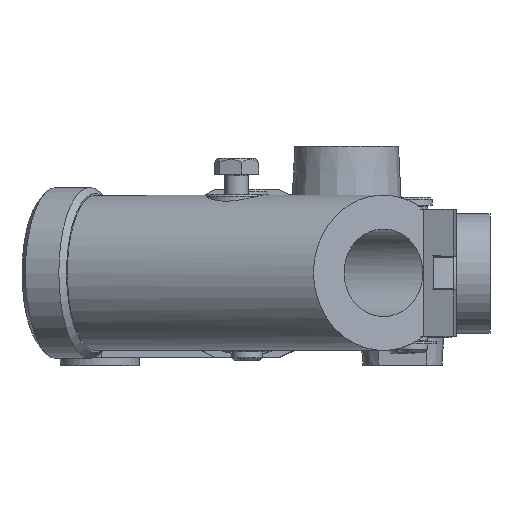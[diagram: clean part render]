
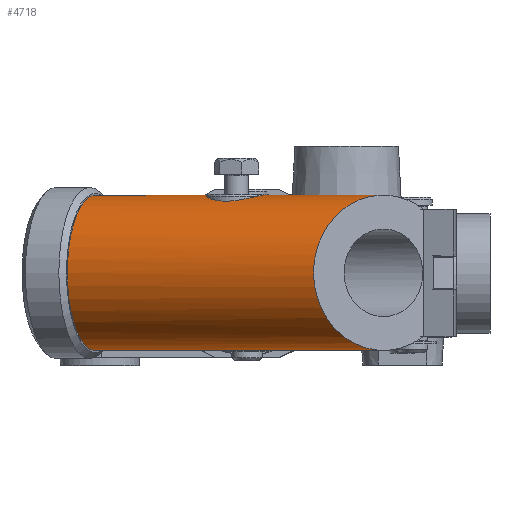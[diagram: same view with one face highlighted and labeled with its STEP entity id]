
A CAD part, top view. The second image highlights one B-rep face of the part: STEP entity #4718.
In plain terms, the highlighted cylindrical face has radius 19.5 mm (diameter 39 mm), a partial arc.
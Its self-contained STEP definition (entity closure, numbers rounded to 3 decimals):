
#20=ELLIPSE('',#6087,20.751,19.5);
#21=ELLIPSE('',#6088,22.517,19.5);
#22=ELLIPSE('',#6089,20.751,19.5);
#23=ELLIPSE('',#6090,20.751,19.5);
#24=ELLIPSE('',#6092,20.751,19.5);
#101=LINE('',#8553,#410);
#102=LINE('',#8558,#411);
#103=LINE('',#8562,#412);
#104=LINE('',#8566,#413);
#105=LINE('',#8600,#414);
#106=LINE('',#8604,#415);
#107=LINE('',#8608,#416);
#410=VECTOR('',#6947,1000.);
#411=VECTOR('',#6950,1000.);
#412=VECTOR('',#6953,1000.);
#413=VECTOR('',#6956,1000.);
#414=VECTOR('',#6957,1000.);
#415=VECTOR('',#6960,1000.);
#416=VECTOR('',#6963,1000.);
#679=B_SPLINE_CURVE_WITH_KNOTS('',3,(#8568,#8569,#8570,#8571,#8572,#8573),
 .UNSPECIFIED.,.F.,.F.,(4,1,1,4),(0.039,0.043,
0.045,0.047),.UNSPECIFIED.);
#680=B_SPLINE_CURVE_WITH_KNOTS('',3,(#8575,#8576,#8577,#8578,#8579),
 .UNSPECIFIED.,.F.,.F.,(4,1,4),(0.032,0.036,0.039),
 .UNSPECIFIED.);
#681=B_SPLINE_CURVE_WITH_KNOTS('',3,(#8581,#8582,#8583,#8584,#8585,#8586,
#8587),.UNSPECIFIED.,.F.,.F.,(4,1,1,1,4),(0.015,0.019,
0.024,0.028,0.032),.UNSPECIFIED.);
#682=B_SPLINE_CURVE_WITH_KNOTS('',3,(#8589,#8590,#8591,#8592,#8593),
 .UNSPECIFIED.,.F.,.F.,(4,1,4),(0.009,0.012,0.015),
 .UNSPECIFIED.);
#683=B_SPLINE_CURVE_WITH_KNOTS('',3,(#8595,#8596,#8597,#8598,#8599),
 .UNSPECIFIED.,.F.,.F.,(4,1,4),(0.,0.004,0.009),
 .UNSPECIFIED.);
#812=CYLINDRICAL_SURFACE('',#6086,19.5);
#1142=ORIENTED_EDGE('',*,*,#2286,.F.);
#1143=ORIENTED_EDGE('',*,*,#2287,.T.);
#1144=ORIENTED_EDGE('',*,*,#2288,.T.);
#1145=ORIENTED_EDGE('',*,*,#2289,.T.);
#1146=ORIENTED_EDGE('',*,*,#2290,.F.);
#1147=ORIENTED_EDGE('',*,*,#2291,.T.);
#1148=ORIENTED_EDGE('',*,*,#2292,.F.);
#1149=ORIENTED_EDGE('',*,*,#2293,.F.);
#1150=ORIENTED_EDGE('',*,*,#2294,.F.);
#1151=ORIENTED_EDGE('',*,*,#2295,.F.);
#1152=ORIENTED_EDGE('',*,*,#2296,.F.);
#1153=ORIENTED_EDGE('',*,*,#2297,.F.);
#1154=ORIENTED_EDGE('',*,*,#2298,.F.);
#1155=ORIENTED_EDGE('',*,*,#2299,.F.);
#1156=ORIENTED_EDGE('',*,*,#2300,.T.);
#1157=ORIENTED_EDGE('',*,*,#2301,.T.);
#1158=ORIENTED_EDGE('',*,*,#2302,.T.);
#1159=ORIENTED_EDGE('',*,*,#2303,.F.);
#2286=EDGE_CURVE('',#2963,#2964,#101,.T.);
#2287=EDGE_CURVE('',#2963,#2965,#20,.T.);
#2288=EDGE_CURVE('',#2965,#2966,#102,.F.);
#2289=EDGE_CURVE('',#2966,#2967,#21,.T.);
#2290=EDGE_CURVE('',#2968,#2967,#103,.F.);
#2291=EDGE_CURVE('',#2968,#2969,#22,.T.);
#2292=EDGE_CURVE('',#2970,#2969,#104,.F.);
#2293=EDGE_CURVE('',#2971,#2970,#679,.T.);
#2294=EDGE_CURVE('',#2972,#2971,#680,.T.);
#2295=EDGE_CURVE('',#2973,#2972,#681,.T.);
#2296=EDGE_CURVE('',#2974,#2973,#682,.T.);
#2297=EDGE_CURVE('',#2970,#2974,#683,.T.);
#2298=EDGE_CURVE('',#2975,#2970,#105,.F.);
#2299=EDGE_CURVE('',#2976,#2975,#23,.T.);
#2300=EDGE_CURVE('',#2976,#2977,#106,.T.);
#2301=EDGE_CURVE('',#2977,#2978,#3460,.T.);
#2302=EDGE_CURVE('',#2978,#2979,#107,.F.);
#2303=EDGE_CURVE('',#2964,#2979,#24,.T.);
#2963=VERTEX_POINT('',#8554);
#2964=VERTEX_POINT('',#8555);
#2965=VERTEX_POINT('',#8557);
#2966=VERTEX_POINT('',#8559);
#2967=VERTEX_POINT('',#8561);
#2968=VERTEX_POINT('',#8563);
#2969=VERTEX_POINT('',#8565);
#2970=VERTEX_POINT('',#8567);
#2971=VERTEX_POINT('',#8574);
#2972=VERTEX_POINT('',#8580);
#2973=VERTEX_POINT('',#8588);
#2974=VERTEX_POINT('',#8594);
#2975=VERTEX_POINT('',#8601);
#2976=VERTEX_POINT('',#8603);
#2977=VERTEX_POINT('',#8605);
#2978=VERTEX_POINT('',#8607);
#2979=VERTEX_POINT('',#8609);
#3460=CIRCLE('',#6091,19.5);
#3804=EDGE_LOOP('',(#1142,#1143,#1144,#1145,#1146,#1147,#1148,#1149,#1150,
#1151,#1152,#1153,#1154,#1155,#1156,#1157,#1158,#1159));
#4216=FACE_BOUND('',#3804,.T.);
#4718=ADVANCED_FACE('',(#4216),#812,.T.);
#6086=AXIS2_PLACEMENT_3D('',#8552,#6945,#6946);
#6087=AXIS2_PLACEMENT_3D('',#8556,#6948,#6949);
#6088=AXIS2_PLACEMENT_3D('',#8560,#6951,#6952);
#6089=AXIS2_PLACEMENT_3D('',#8564,#6954,#6955);
#6090=AXIS2_PLACEMENT_3D('',#8602,#6958,#6959);
#6091=AXIS2_PLACEMENT_3D('',#8606,#6961,#6962);
#6092=AXIS2_PLACEMENT_3D('',#8610,#6964,#6965);
#6945=DIRECTION('',(-0.933,0.,-0.361));
#6946=DIRECTION('',(0.361,0.,-0.933));
#6947=DIRECTION('',(-0.933,0.,-0.361));
#6948=DIRECTION('',(1.,0.,0.02));
#6949=DIRECTION('',(0.02,0.,-1.));
#6950=DIRECTION('',(-0.933,0.,-0.361));
#6951=DIRECTION('',(-0.628,0.,-0.779));
#6952=DIRECTION('',(-0.779,0.,0.628));
#6953=DIRECTION('',(-0.933,0.,-0.361));
#6954=DIRECTION('',(1.,0.,0.02));
#6955=DIRECTION('',(0.02,0.,-1.));
#6956=DIRECTION('',(-0.933,0.,-0.361));
#6957=DIRECTION('',(-0.933,0.,-0.361));
#6958=DIRECTION('',(0.753,0.,0.658));
#6959=DIRECTION('',(-0.658,0.,0.753));
#6960=DIRECTION('',(-0.933,0.,-0.361));
#6961=DIRECTION('',(0.933,0.,0.361));
#6962=DIRECTION('',(-0.361,0.,0.933));
#6963=DIRECTION('',(-0.933,0.,-0.361));
#6964=DIRECTION('',(0.753,0.,0.658));
#6965=DIRECTION('',(-0.658,0.,0.753));
#8552=CARTESIAN_POINT('',(40.231,0.,229.757));
#8553=CARTESIAN_POINT('',(42.935,-18.,222.761));
#8554=CARTESIAN_POINT('',(13.442,-18.,211.362));
#8555=CARTESIAN_POINT('',(-34.366,-18.,192.884));
#8556=CARTESIAN_POINT('',(13.285,0.,219.342));
#8557=CARTESIAN_POINT('',(13.519,-16.,207.482));
#8558=CARTESIAN_POINT('',(44.25,-16.,219.359));
#8559=CARTESIAN_POINT('',(44.25,-16.,219.359));
#8560=CARTESIAN_POINT('',(34.229,0.,227.436));
#8561=CARTESIAN_POINT('',(44.25,16.,219.359));
#8562=CARTESIAN_POINT('',(44.25,16.,219.359));
#8563=CARTESIAN_POINT('',(13.519,16.,207.482));
#8564=CARTESIAN_POINT('',(13.285,0.,219.342));
#8565=CARTESIAN_POINT('',(13.442,18.,211.362));
#8566=CARTESIAN_POINT('',(42.935,18.,222.761));
#8567=CARTESIAN_POINT('',(0.029,18.,206.177));
#8568=CARTESIAN_POINT('',(4.812,19.25,212.73));
#8569=CARTESIAN_POINT('',(4.727,19.04,211.304));
#8570=CARTESIAN_POINT('',(3.982,18.556,209.223));
#8571=CARTESIAN_POINT('',(1.961,18.089,207.149));
#8572=CARTESIAN_POINT('',(0.71,18.,206.441));
#8573=CARTESIAN_POINT('',(0.029,18.,206.177));
#8574=CARTESIAN_POINT('',(4.812,19.25,212.73));
#8575=CARTESIAN_POINT('',(2.567,19.25,218.536));
#8576=CARTESIAN_POINT('',(3.333,19.407,217.788));
#8577=CARTESIAN_POINT('',(4.537,19.593,215.965));
#8578=CARTESIAN_POINT('',(4.874,19.406,213.789));
#8579=CARTESIAN_POINT('',(4.812,19.25,212.73));
#8580=CARTESIAN_POINT('',(2.567,19.25,218.536));
#8581=CARTESIAN_POINT('',(-10.162,19.25,213.616));
#8582=CARTESIAN_POINT('',(-10.077,19.039,215.051));
#8583=CARTESIAN_POINT('',(-9.093,18.392,217.802));
#8584=CARTESIAN_POINT('',(-5.542,17.804,220.571));
#8585=CARTESIAN_POINT('',(-1.039,18.392,220.916));
#8586=CARTESIAN_POINT('',(1.538,19.038,219.542));
#8587=CARTESIAN_POINT('',(2.567,19.25,218.536));
#8588=CARTESIAN_POINT('',(-10.162,19.25,213.616));
#8589=CARTESIAN_POINT('',(-7.918,19.25,207.81));
#8590=CARTESIAN_POINT('',(-8.673,19.405,208.548));
#8591=CARTESIAN_POINT('',(-9.889,19.594,210.38));
#8592=CARTESIAN_POINT('',(-10.225,19.407,212.55));
#8593=CARTESIAN_POINT('',(-10.162,19.25,213.616));
#8594=CARTESIAN_POINT('',(-7.918,19.25,207.81));
#8595=CARTESIAN_POINT('',(0.029,18.,206.177));
#8596=CARTESIAN_POINT('',(-1.334,18.,205.651));
#8597=CARTESIAN_POINT('',(-4.292,18.39,205.428));
#8598=CARTESIAN_POINT('',(-6.901,19.041,206.816));
#8599=CARTESIAN_POINT('',(-7.918,19.25,207.81));
#8600=CARTESIAN_POINT('',(42.935,18.,222.761));
#8601=CARTESIAN_POINT('',(-34.366,18.,192.884));
#8602=CARTESIAN_POINT('',(-39.616,0.,198.895));
#8603=CARTESIAN_POINT('',(-27.016,7.5,184.468));
#8604=CARTESIAN_POINT('',(46.721,7.5,212.967));
#8605=CARTESIAN_POINT('',(-31.631,7.5,182.684));
#8606=CARTESIAN_POINT('',(-38.12,0.,199.474));
#8607=CARTESIAN_POINT('',(-31.631,-7.5,182.684));
#8608=CARTESIAN_POINT('',(46.721,-7.5,212.967));
#8609=CARTESIAN_POINT('',(-27.016,-7.5,184.468));
#8610=CARTESIAN_POINT('',(-39.616,0.,198.895));
